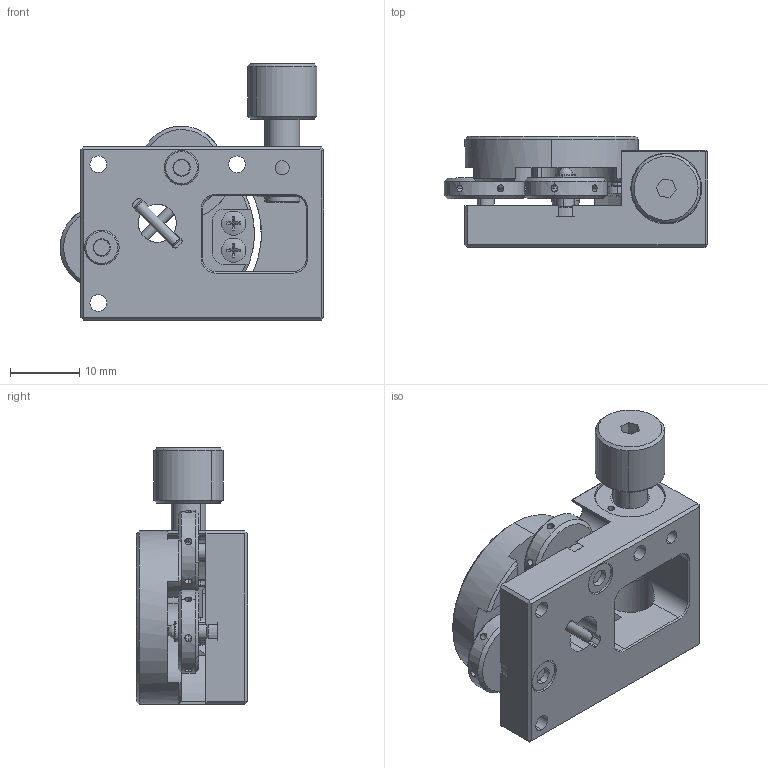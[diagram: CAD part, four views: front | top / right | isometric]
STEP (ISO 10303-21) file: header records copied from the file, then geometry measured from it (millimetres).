
FILE_DESCRIPTION (( 'STEP AP214' ), '1' );
FILE_NAME ('PT-SR25.STEP', '2023-05-07T05:42:14', ( '' ), ( '' ), 'SwSTEP 2.0', 'SolidWorks 2017', '' );
FILE_SCHEMA (( 'AUTOMOTIVE_DESIGN' ));
Length unit declared in the file: millimetre
Products named in the file (2): PT-SR25
Bounding box: 38 x 16.03 x 37 mm (x, y, z)
Volume: 9191.8 mm3; surface area: 8256.2 mm2
Topology: 15 solids, 15 shells, 780 faces, 2050 edges, 1308 vertices
Faces by surface type: plane 356, bspline 173, cylinder 168, cone 83
Entity records: 39362 total; most frequent: CARTESIAN_POINT 12418, ORIENTED_EDGE 4012, DIRECTION 3280, EDGE_CURVE 2006, VERTEX_POINT 1308, VECTOR 1156, LINE 1156, AXIS2_PLACEMENT_3D 1062
